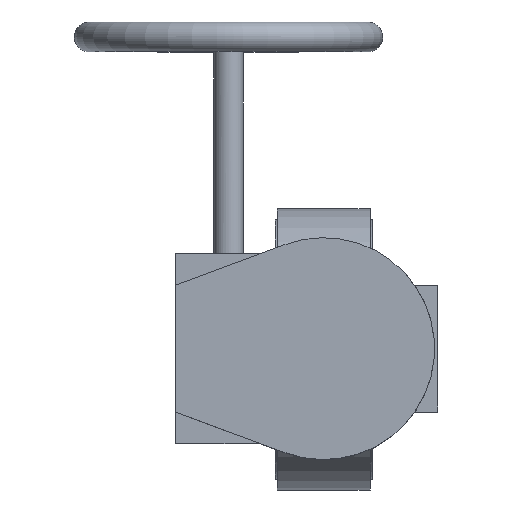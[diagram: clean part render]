
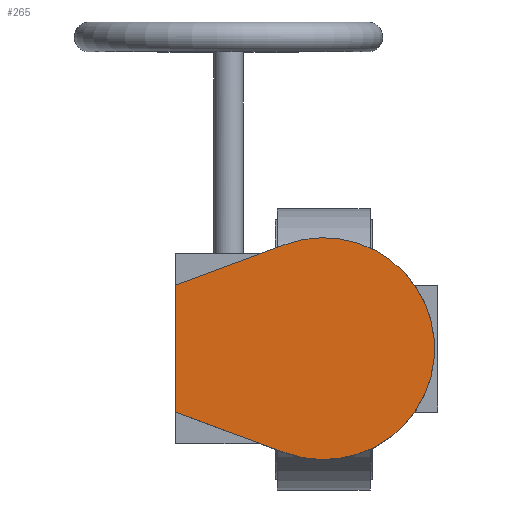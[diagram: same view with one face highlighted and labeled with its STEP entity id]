
A CAD part, top view. The second image highlights one B-rep face of the part: STEP entity #265.
In plain terms, the highlighted planar face has unit normal (0, 0, 1).
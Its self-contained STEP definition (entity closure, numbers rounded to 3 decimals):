
#265=ADVANCED_FACE('',(#6381),#6383,.T.);
#6381=FACE_BOUND('',#6382,.T.);
#6382=EDGE_LOOP('',(#11248,#11249,#11250,#11251));
#6383=PLANE('',#6384);
#6384=AXIS2_PLACEMENT_3D('',#6385,#6386,#6387);
#6385=CARTESIAN_POINT('',(0.,0.,225.));
#6386=DIRECTION('',(0.,0.,1.));
#6387=DIRECTION('',(0.,1.,0.));
#11248=ORIENTED_EDGE('',*,*,#15034,.T.);
#11249=ORIENTED_EDGE('',*,*,#15030,.T.);
#11250=ORIENTED_EDGE('',*,*,#15023,.T.);
#11251=ORIENTED_EDGE('',*,*,#15018,.T.);
#15018=EDGE_CURVE('',#16994,#16992,#16995,.T.);
#15023=EDGE_CURVE('',#17002,#16994,#17003,.T.);
#15030=EDGE_CURVE('',#17015,#17002,#17016,.T.);
#15034=EDGE_CURVE('',#16992,#17015,#17021,.T.);
#16992=VERTEX_POINT('',#20287);
#16994=VERTEX_POINT('',#20291);
#16995=LINE('',#20292,#20293);
#17002=VERTEX_POINT('',#20309);
#17003=LINE('',#20310,#20311);
#17015=VERTEX_POINT('',#20336);
#17016=LINE('',#20337,#20338);
#17021=CIRCLE('',#20350,52.5);
#20287=CARTESIAN_POINT('',(-18.284,-49.213,225.));
#20291=CARTESIAN_POINT('',(-70.,-30.,225.));
#20292=CARTESIAN_POINT('',(-70.,-30.,225.));
#20293=VECTOR('',#20294,1.);
#20294=DIRECTION('',(0.937,-0.348,0.));
#20309=CARTESIAN_POINT('',(-70.,30.,225.));
#20310=CARTESIAN_POINT('',(-70.,30.,225.));
#20311=VECTOR('',#20312,1.);
#20312=DIRECTION('',(0.,-1.,0.));
#20336=CARTESIAN_POINT('',(-18.284,49.213,225.));
#20337=CARTESIAN_POINT('',(-18.284,49.213,225.));
#20338=VECTOR('',#20339,1.);
#20339=DIRECTION('',(-0.937,-0.348,0.));
#20350=AXIS2_PLACEMENT_3D('',#20351,#20352,#20353);
#20351=CARTESIAN_POINT('',(0.,0.,225.));
#20352=DIRECTION('',(0.,0.,1.));
#20353=DIRECTION('',(-0.348,-0.937,0.));
